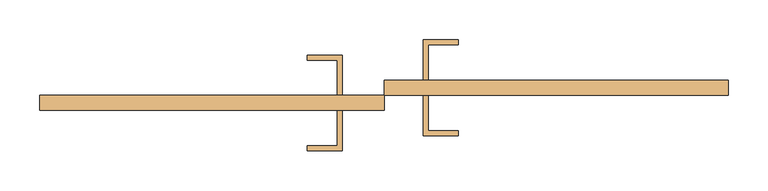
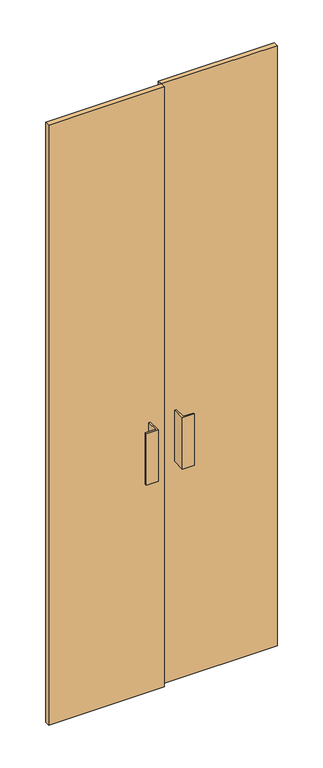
"""IFC4 building model written with IfcOpenShell, lengths in millimetres: door geometry, Parede cortina com vidro duplo CORRER : Parede cortina com vidro duplo CORRER 2."""

from ifc_helpers import new_model, si_unit, frame, origin, origin_with_axes, place, context, project, spatial, polyline, outline, extrude, source, transform, mapped, element, save


def door_d7a5c4d0(model_context):
    return source(origin(), model_context, "Body", "SweptSolid", [
        extrude(outline(polyline([(-431.5687176, -69.05), (-431.5687176, -50.0), (1.5875, -50.0), (1.5875, -69.05), (-431.5687176, -69.05)])), origin_with_axes(), (0.0, 0.0, 1.0), 2375.0),
        extrude(outline(polyline([(434.7437176, -30.95), (434.7437176, -50.0), (1.5875, -50.0), (1.5875, -30.95), (434.7437176, -30.95)])), origin_with_axes(), (0.0, 0.0, 1.0), 2375.0),
        extrude(outline(polyline([(-50.8, -119.85), (-95.25, -119.85), (-95.25, -113.5), (-57.15, -113.5), (-57.15, -69.05), (-50.8, -69.05), (-50.8, -119.85)])), frame((0.0, 0.0, 863.6), z_axis=(0.0, 0.0, 1.0), x_axis=(1.0, 0.0, 0.0)), (0.0, 0.0, 1.0), 203.2),
        extrude(outline(polyline([(50.8, -100.8), (50.8, -50.0), (57.15, -50.0), (57.15, -94.45), (95.25, -94.45), (95.25, -100.8), (50.8, -100.8)])), frame((0.0, 0.0, 863.6), z_axis=(0.0, 0.0, 1.0), x_axis=(1.0, 0.0, 0.0)), (0.0, 0.0, 1.0), 203.2),
        extrude(outline(polyline([(-50.8, 0.8), (-50.8, -50.0), (-57.15, -50.0), (-57.15, -30.95), (-57.15, -5.55), (-95.25, -5.55), (-95.25, 0.8), (-50.8, 0.8)])), frame((0.0, 0.0, 863.6), z_axis=(0.0, 0.0, 1.0), x_axis=(1.0, 0.0, 0.0)), (0.0, 0.0, 1.0), 203.2),
        extrude(outline(polyline([(50.8, 19.85), (95.25, 19.85), (95.25, 13.5), (57.15, 13.5), (57.15, -30.95), (50.8, -30.95), (50.8, 19.85)])), frame((0.0, 0.0, 863.6), z_axis=(0.0, 0.0, 1.0), x_axis=(1.0, 0.0, 0.0)), (0.0, 0.0, 1.0), 203.2),
    ])


if __name__ == "__main__":
    model = new_model("IFC4")
    model_context = context("Model", 3, world=origin())
    ifc_project = project(units=[si_unit("LENGTHUNIT", "METRE", prefix="MILLI")], contexts=[model_context])
    site = spatial("IfcSite", under=ifc_project)
    building = spatial("IfcBuilding", under=site)
    placement = place(None, origin())
    door_shape = door_d7a5c4d0(model_context)
    element("IfcDoor", 1, ObjectType="Parede cortina com vidro duplo CORRER : Parede cortina com vidro duplo CORRER 2", at=placement, inside=building, context=model_context, shape_type="MappedRepresentation", body=[
        mapped(door_shape, transform((0.0, 0.0, 0.0), x_axis=(1.0, 0.0, 0.0), y_axis=(0.0, 1.0, 0.0), z_axis=(0.0, 0.0, 1.0))),
    ])
    save(model, "model.ifc")
